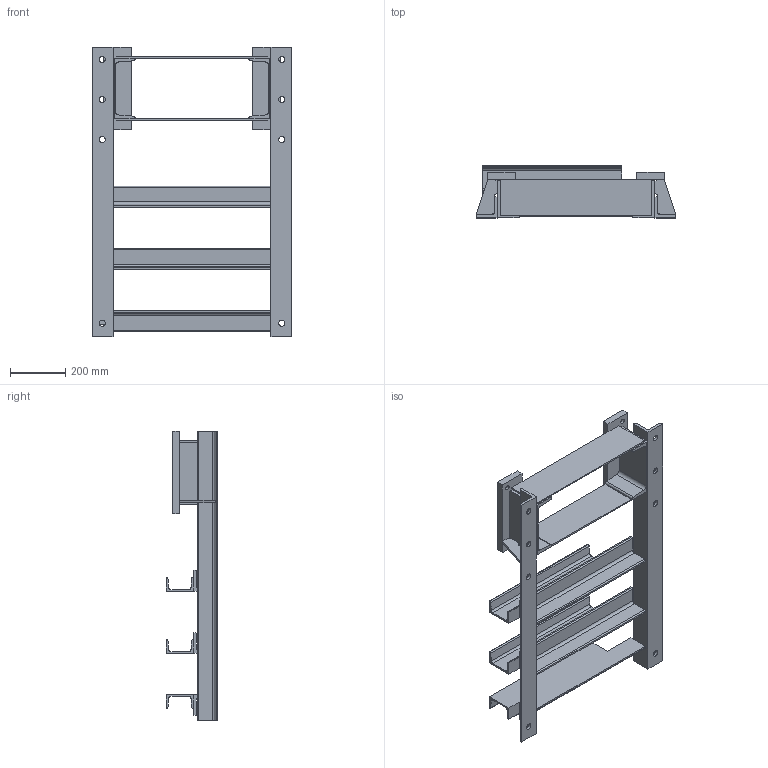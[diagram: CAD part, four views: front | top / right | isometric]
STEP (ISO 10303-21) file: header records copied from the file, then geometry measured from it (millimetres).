
FILE_DESCRIPTION(/* description */ (''),/* implementation_level */ '2;1');
FILE_NAME(/* name */ 'K:\NEMANJA\0700-6\CABLE REEL PART\0700-6\11 DMF\STEP\DMF-GBM-25-01KV.stp',/* time_stamp */ '2017-11-30T18:10:37+01:00',/* author */ ('zeldjo01'),/* organization */ ('Hillmar Industries Ltd.'),/* preprocessor_version */ 'ST-DEVELOPER v16.1',/* originating_system */ 'Autodesk Inventor 2016',/* authorisation */ '');
FILE_SCHEMA (('AUTOMOTIVE_DESIGN { 1 0 10303 214 3 1 1 }'));
Length unit declared in the file: millimetre
Products named in the file (1): DMF-GBM-25-01KV
Bounding box: 722 x 188 x 1050 mm (x, y, z)
Volume: 10737102.3 mm3; surface area: 2118905.9 mm2
Topology: 1 solids, 1 shells, 184 faces, 589 edges, 381 vertices
Faces by surface type: plane 135, cylinder 49
Full cylindrical faces by diameter (mm): 17.294 x4, 22 x8
Entity records: 6576 total; most frequent: ORIENTED_EDGE 1130, CARTESIAN_POINT 1119, DIRECTION 1047, EDGE_CURVE 565, LINE 453, VECTOR 453, VERTEX_POINT 369, AXIS2_PLACEMENT_3D 297
